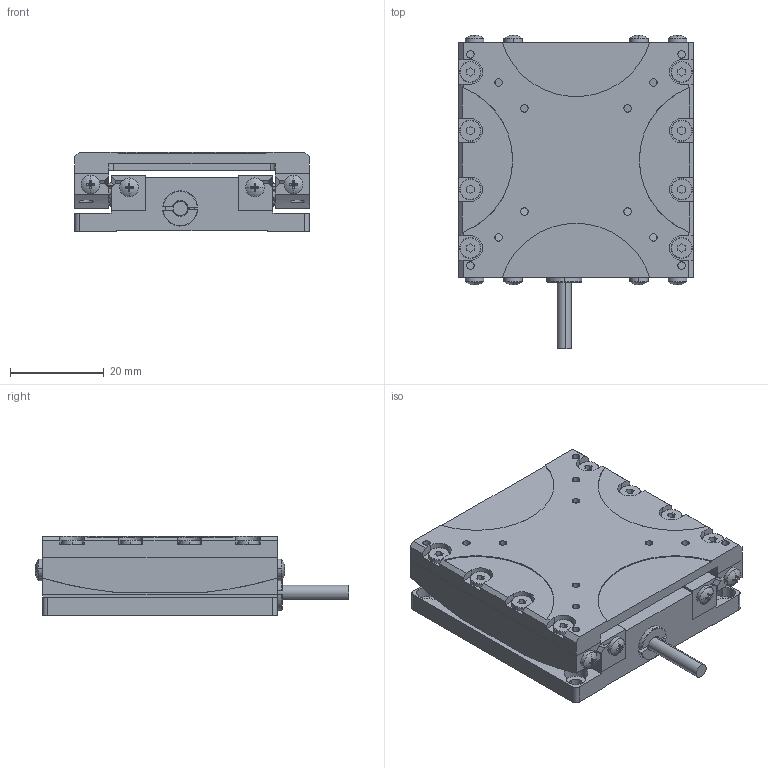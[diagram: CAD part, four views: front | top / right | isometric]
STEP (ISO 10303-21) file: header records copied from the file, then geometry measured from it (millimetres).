
FILE_DESCRIPTION (( 'STEP AP214' ), '1' );
FILE_NAME ('N70.U10E-B1压电偏摆马达（简化）.STEP', '2024-12-20T02:46:10', ( 'Sky123.Org' ), ( 'Sky123.Org' ), 'SwSTEP 2.0', 'SolidWorks 2016', '' );
FILE_SCHEMA (( 'AUTOMOTIVE_DESIGN' ));
Length unit declared in the file: millimetre
Products named in the file (1): N70.U10E-B1压电偏摆马达（简化）
Bounding box: 50 x 66.79 x 17 mm (x, y, z)
Volume: 35075.6 mm3; surface area: 25416.2 mm2
Topology: 54 solids, 54 shells, 1224 faces, 2816 edges, 1754 vertices
Faces by surface type: plane 545, cylinder 399, cone 184, torus 80, sphere 16
Entity records: 49329 total; most frequent: DIRECTION 6494, CARTESIAN_POINT 6435, ORIENTED_EDGE 5592, EDGE_CURVE 2796, AXIS2_PLACEMENT_3D 2535, VERTEX_POINT 1754, EDGE_LOOP 1434, VECTOR 1424
